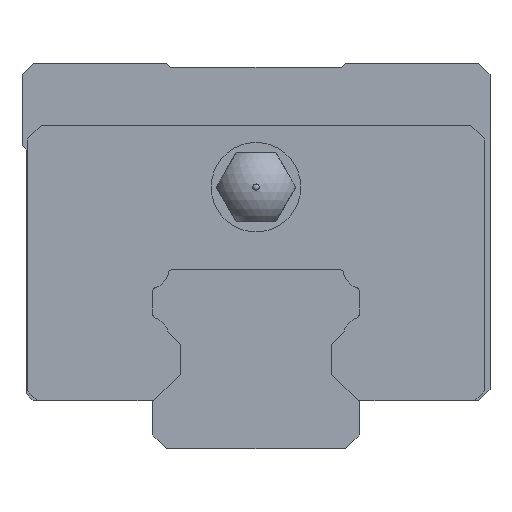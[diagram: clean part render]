
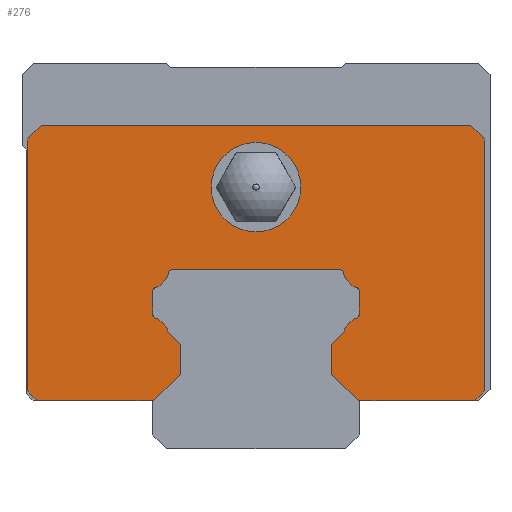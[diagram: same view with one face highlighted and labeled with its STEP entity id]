
A CAD part, front view. The second image highlights one B-rep face of the part: STEP entity #276.
In plain terms, the highlighted planar face has unit normal (0, -1, 0).
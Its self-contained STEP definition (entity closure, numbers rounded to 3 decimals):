
#276=ADVANCED_FACE('',(#544,#545),#546,.T.);
#544=FACE_OUTER_BOUND('',#863,.T.);
#545=FACE_BOUND('',#864,.T.);
#546=PLANE('',#865);
#863=EDGE_LOOP('',(#1785,#1786,#1787,#1788,#1789,#1790,#1791,#1792,#1793,#1794,#1795,#1796,#1797,#1798,#1799,#1800,#1801,#1802,#1803,#1804,#1805,#1806,#1807,#1808,#1809,#1810,#1811,#1812));
#864=EDGE_LOOP('',(#1813,#1814,#1815));
#865=AXIS2_PLACEMENT_3D('',#1816,#1817,#1818);
#1785=ORIENTED_EDGE('',*,*,#2475,.F.);
#1786=ORIENTED_EDGE('',*,*,#2476,.F.);
#1787=ORIENTED_EDGE('',*,*,#2477,.F.);
#1788=ORIENTED_EDGE('',*,*,#2478,.F.);
#1789=ORIENTED_EDGE('',*,*,#2434,.F.);
#1790=ORIENTED_EDGE('',*,*,#2466,.F.);
#1791=ORIENTED_EDGE('',*,*,#2479,.F.);
#1792=ORIENTED_EDGE('',*,*,#2480,.F.);
#1793=ORIENTED_EDGE('',*,*,#2481,.F.);
#1794=ORIENTED_EDGE('',*,*,#2482,.F.);
#1795=ORIENTED_EDGE('',*,*,#2483,.F.);
#1796=ORIENTED_EDGE('',*,*,#2484,.F.);
#1797=ORIENTED_EDGE('',*,*,#2485,.F.);
#1798=ORIENTED_EDGE('',*,*,#2486,.F.);
#1799=ORIENTED_EDGE('',*,*,#2487,.F.);
#1800=ORIENTED_EDGE('',*,*,#2488,.F.);
#1801=ORIENTED_EDGE('',*,*,#2438,.F.);
#1802=ORIENTED_EDGE('',*,*,#2429,.F.);
#1803=ORIENTED_EDGE('',*,*,#2489,.F.);
#1804=ORIENTED_EDGE('',*,*,#2427,.T.);
#1805=ORIENTED_EDGE('',*,*,#2443,.T.);
#1806=ORIENTED_EDGE('',*,*,#2490,.T.);
#1807=ORIENTED_EDGE('',*,*,#2491,.T.);
#1808=ORIENTED_EDGE('',*,*,#2412,.T.);
#1809=ORIENTED_EDGE('',*,*,#2492,.T.);
#1810=ORIENTED_EDGE('',*,*,#2473,.T.);
#1811=ORIENTED_EDGE('',*,*,#2415,.T.);
#1812=ORIENTED_EDGE('',*,*,#2384,.T.);
#1813=ORIENTED_EDGE('',*,*,#2493,.F.);
#1814=ORIENTED_EDGE('',*,*,#2494,.F.);
#1815=ORIENTED_EDGE('',*,*,#2334,.F.);
#1816=CARTESIAN_POINT('',(0.0,-7.5,19.));
#1817=DIRECTION('',(0.0,-1.0,0.0));
#1818=DIRECTION('',(0.0,0.0,-1.0));
#2334=EDGE_CURVE('',#2832,#2835,#2836,.T.);
#2384=EDGE_CURVE('',#2921,#2918,#2922,.T.);
#2412=EDGE_CURVE('',#2974,#2972,#2975,.T.);
#2415=EDGE_CURVE('',#2979,#2921,#2980,.T.);
#2427=EDGE_CURVE('',#2987,#2996,#2998,.T.);
#2429=EDGE_CURVE('',#3000,#3002,#3003,.T.);
#2434=EDGE_CURVE('',#3009,#3011,#3012,.T.);
#2438=EDGE_CURVE('',#3002,#3017,#3018,.T.);
#2443=EDGE_CURVE('',#2996,#3024,#3026,.T.);
#2466=EDGE_CURVE('',#3062,#3009,#3064,.T.);
#2473=EDGE_CURVE('',#3075,#2979,#3076,.T.);
#2475=EDGE_CURVE('',#3078,#2918,#3079,.T.);
#2476=EDGE_CURVE('',#3080,#3078,#3081,.T.);
#2477=EDGE_CURVE('',#3082,#3080,#3083,.T.);
#2478=EDGE_CURVE('',#3011,#3082,#3084,.T.);
#2479=EDGE_CURVE('',#3085,#3062,#3086,.T.);
#2480=EDGE_CURVE('',#3087,#3085,#3088,.T.);
#2481=EDGE_CURVE('',#3089,#3087,#3090,.T.);
#2482=EDGE_CURVE('',#3091,#3089,#3092,.T.);
#2483=EDGE_CURVE('',#3093,#3091,#3094,.T.);
#2484=EDGE_CURVE('',#3095,#3093,#3096,.T.);
#2485=EDGE_CURVE('',#3097,#3095,#3098,.T.);
#2486=EDGE_CURVE('',#3099,#3097,#3100,.T.);
#2487=EDGE_CURVE('',#3101,#3099,#3102,.T.);
#2488=EDGE_CURVE('',#3017,#3101,#3103,.T.);
#2489=EDGE_CURVE('',#2987,#3000,#3104,.T.);
#2490=EDGE_CURVE('',#3024,#3105,#3106,.T.);
#2491=EDGE_CURVE('',#3105,#2974,#3107,.T.);
#2492=EDGE_CURVE('',#2972,#3075,#3108,.T.);
#2493=EDGE_CURVE('',#3109,#2832,#3110,.T.);
#2494=EDGE_CURVE('',#2835,#3109,#3111,.T.);
#2832=VERTEX_POINT('',#3556);
#2835=VERTEX_POINT('',#3560);
#2836=CIRCLE('',#3561,3.25);
#2918=VERTEX_POINT('',#3670);
#2921=VERTEX_POINT('',#3674);
#2922=LINE('',#3675,#3676);
#2972=VERTEX_POINT('',#3749);
#2974=VERTEX_POINT('',#3752);
#2975=LINE('',#3753,#3754);
#2979=VERTEX_POINT('',#3760);
#2980=LINE('',#3761,#3762);
#2987=VERTEX_POINT('',#3770);
#2996=VERTEX_POINT('',#3784);
#2998=LINE('',#3787,#3788);
#3000=VERTEX_POINT('',#3790);
#3002=VERTEX_POINT('',#3793);
#3003=LINE('',#3794,#3795);
#3009=VERTEX_POINT('',#3803);
#3011=VERTEX_POINT('',#3806);
#3012=CIRCLE('',#3807,0.3);
#3017=VERTEX_POINT('',#3813);
#3018=LINE('',#3814,#3815);
#3024=VERTEX_POINT('',#3824);
#3026=LINE('',#3827,#3828);
#3062=VERTEX_POINT('',#3885);
#3064=LINE('',#3888,#3889);
#3075=VERTEX_POINT('',#3905);
#3076=LINE('',#3906,#3907);
#3078=VERTEX_POINT('',#3910);
#3079=LINE('',#3911,#3912);
#3080=VERTEX_POINT('',#3913);
#3081=LINE('',#3914,#3915);
#3082=VERTEX_POINT('',#3916);
#3083=LINE('',#3917,#3918);
#3084=CIRCLE('',#3919,1.4);
#3085=VERTEX_POINT('',#3920);
#3086=CIRCLE('',#3921,0.3);
#3087=VERTEX_POINT('',#3922);
#3088=CIRCLE('',#3923,1.4);
#3089=VERTEX_POINT('',#3924);
#3090=CIRCLE('',#3925,0.3);
#3091=VERTEX_POINT('',#3926);
#3092=LINE('',#3927,#3928);
#3093=VERTEX_POINT('',#3929);
#3094=CIRCLE('',#3930,0.3);
#3095=VERTEX_POINT('',#3931);
#3096=CIRCLE('',#3932,1.4);
#3097=VERTEX_POINT('',#3933);
#3098=CIRCLE('',#3934,0.3);
#3099=VERTEX_POINT('',#3935);
#3100=LINE('',#3936,#3937);
#3101=VERTEX_POINT('',#3938);
#3102=CIRCLE('',#3939,0.3);
#3103=CIRCLE('',#3940,1.4);
#3104=LINE('',#3941,#3942);
#3105=VERTEX_POINT('',#3943);
#3106=LINE('',#3944,#3945);
#3107=LINE('',#3946,#3947);
#3108=LINE('',#3948,#3949);
#3109=VERTEX_POINT('',#3950);
#3110=CIRCLE('',#3951,3.25);
#3111=CIRCLE('',#3952,3.25);
#3556=CARTESIAN_POINT('',(0.,-7.5,22.25));
#3560=CARTESIAN_POINT('',(0.,-7.5,15.75));
#3561=AXIS2_PLACEMENT_3D('',#4384,#4385,#4386);
#3670=CARTESIAN_POINT('',(-7.4,-7.5,3.5));
#3674=CARTESIAN_POINT('',(-15.9,-7.5,3.5));
#3675=CARTESIAN_POINT('',(-15.9,-7.5,3.5));
#3676=VECTOR('',#4478,1000.0);
#3749=CARTESIAN_POINT('',(-15.6,-7.5,23.5));
#3752=CARTESIAN_POINT('',(15.6,-7.5,23.5));
#3753=CARTESIAN_POINT('',(15.6,-7.5,23.5));
#3754=VECTOR('',#4512,1000.0);
#3760=CARTESIAN_POINT('',(-16.6,-7.5,4.2));
#3761=CARTESIAN_POINT('',(-16.6,-7.5,4.2));
#3762=VECTOR('',#4515,1000.0);
#3770=CARTESIAN_POINT('',(7.4,-7.5,3.5));
#3784=CARTESIAN_POINT('',(15.9,-7.5,3.5));
#3787=CARTESIAN_POINT('',(-15.9,-7.5,3.5));
#3788=VECTOR('',#4535,1000.0);
#3790=CARTESIAN_POINT('',(5.5,-7.5,5.4));
#3793=CARTESIAN_POINT('',(5.5,-7.5,7.6));
#3794=CARTESIAN_POINT('',(5.5,-7.5,19.));
#3795=VECTOR('',#4537,1000.0);
#3803=CARTESIAN_POINT('',(-7.5,-7.5,9.772));
#3806=CARTESIAN_POINT('',(-7.295,-7.5,9.488));
#3807=AXIS2_PLACEMENT_3D('',#4544,#4545,#4546);
#3813=CARTESIAN_POINT('',(6.376,-7.5,8.476));
#3814=CARTESIAN_POINT('',(8.45,-7.5,10.55));
#3815=VECTOR('',#4554,1000.0);
#3824=CARTESIAN_POINT('',(16.6,-7.5,4.2));
#3827=CARTESIAN_POINT('',(15.9,-7.5,3.5));
#3828=VECTOR('',#4559,1000.0);
#3885=CARTESIAN_POINT('',(-7.5,-7.5,11.428));
#3888=CARTESIAN_POINT('',(-7.5,-7.5,19.));
#3889=VECTOR('',#4582,1000.0);
#3905=CARTESIAN_POINT('',(-16.6,-7.5,22.5));
#3906=CARTESIAN_POINT('',(-16.6,-7.5,22.5));
#3907=VECTOR('',#4591,1000.0);
#3910=CARTESIAN_POINT('',(-5.5,-7.5,5.4));
#3911=CARTESIAN_POINT('',(4.05,-7.5,14.95));
#3912=VECTOR('',#4593,1000.0);
#3913=CARTESIAN_POINT('',(-5.5,-7.5,7.6));
#3914=CARTESIAN_POINT('',(-5.5,-7.5,19.));
#3915=VECTOR('',#4594,1000.0);
#3916=CARTESIAN_POINT('',(-6.376,-7.5,8.476));
#3917=CARTESIAN_POINT('',(-8.45,-7.5,10.55));
#3918=VECTOR('',#4595,1000.0);
#3919=AXIS2_PLACEMENT_3D('',#4596,#4597,#4598);
#3920=CARTESIAN_POINT('',(-7.295,-7.5,11.712));
#3921=AXIS2_PLACEMENT_3D('',#4599,#4600,#4601);
#3922=CARTESIAN_POINT('',(-6.368,-7.5,12.76));
#3923=AXIS2_PLACEMENT_3D('',#4602,#4603,#4604);
#3924=CARTESIAN_POINT('',(-6.074,-7.5,13.0));
#3925=AXIS2_PLACEMENT_3D('',#4605,#4606,#4607);
#3926=CARTESIAN_POINT('',(6.074,-7.5,13.));
#3927=CARTESIAN_POINT('',(0.0,-7.5,13.0));
#3928=VECTOR('',#4608,1000.0);
#3929=CARTESIAN_POINT('',(6.368,-7.5,12.76));
#3930=AXIS2_PLACEMENT_3D('',#4609,#4610,#4611);
#3931=CARTESIAN_POINT('',(7.295,-7.5,11.712));
#3932=AXIS2_PLACEMENT_3D('',#4612,#4613,#4614);
#3933=CARTESIAN_POINT('',(7.5,-7.5,11.428));
#3934=AXIS2_PLACEMENT_3D('',#4615,#4616,#4617);
#3935=CARTESIAN_POINT('',(7.5,-7.5,9.772));
#3936=CARTESIAN_POINT('',(7.5,-7.5,19.));
#3937=VECTOR('',#4618,1000.0);
#3938=CARTESIAN_POINT('',(7.295,-7.5,9.488));
#3939=AXIS2_PLACEMENT_3D('',#4619,#4620,#4621);
#3940=AXIS2_PLACEMENT_3D('',#4622,#4623,#4624);
#3941=CARTESIAN_POINT('',(-4.05,-7.5,14.95));
#3942=VECTOR('',#4625,1000.0);
#3943=CARTESIAN_POINT('',(16.6,-7.5,22.5));
#3944=CARTESIAN_POINT('',(16.6,-7.5,4.2));
#3945=VECTOR('',#4626,1000.0);
#3946=CARTESIAN_POINT('',(16.6,-7.5,22.5));
#3947=VECTOR('',#4627,1000.0);
#3948=CARTESIAN_POINT('',(-15.6,-7.5,23.5));
#3949=VECTOR('',#4628,1000.0);
#3950=CARTESIAN_POINT('',(3.25,-7.5,19.));
#3951=AXIS2_PLACEMENT_3D('',#4629,#4630,#4631);
#3952=AXIS2_PLACEMENT_3D('',#4632,#4633,#4634);
#4384=CARTESIAN_POINT('',(0.0,-7.5,19.));
#4385=DIRECTION('',(0.0,-1.0,0.0));
#4386=DIRECTION('',(1.0,0.0,0.0));
#4478=DIRECTION('',(1.0,0.0,0.));
#4512=DIRECTION('',(-1.0,0.0,0.0));
#4515=DIRECTION('',(0.707,0.0,-0.707));
#4535=DIRECTION('',(1.0,0.0,0.));
#4537=DIRECTION('',(0.0,0.0,1.0));
#4544=CARTESIAN_POINT('',(-7.2,-7.5,9.772));
#4545=DIRECTION('',(0.0,-1.0,0.0));
#4546=DIRECTION('',(0.0,0.0,-1.0));
#4554=DIRECTION('',(0.707,0.0,0.707));
#4559=DIRECTION('',(0.707,0.0,0.707));
#4582=DIRECTION('',(0.0,0.0,-1.0));
#4591=DIRECTION('',(0.0,0.0,-1.0));
#4593=DIRECTION('',(-0.707,0.0,-0.707));
#4594=DIRECTION('',(0.0,0.0,-1.0));
#4595=DIRECTION('',(0.707,0.0,-0.707));
#4596=CARTESIAN_POINT('',(-7.74,-7.5,8.16));
#4597=DIRECTION('',(0.0,1.0,0.0));
#4598=DIRECTION('',(0.0,0.0,-1.0));
#4599=CARTESIAN_POINT('',(-7.2,-7.5,11.428));
#4600=DIRECTION('',(0.0,-1.0,0.0));
#4601=DIRECTION('',(0.0,0.0,-1.0));
#4602=CARTESIAN_POINT('',(-7.74,-7.5,13.04));
#4603=DIRECTION('',(0.0,1.0,0.0));
#4604=DIRECTION('',(0.0,0.0,-1.0));
#4605=CARTESIAN_POINT('',(-6.074,-7.5,12.7));
#4606=DIRECTION('',(0.0,-1.0,0.0));
#4607=DIRECTION('',(0.0,0.0,-1.0));
#4608=DIRECTION('',(-1.0,0.0,0.0));
#4609=CARTESIAN_POINT('',(6.074,-7.5,12.7));
#4610=DIRECTION('',(0.0,-1.0,0.0));
#4611=DIRECTION('',(0.0,0.0,-1.0));
#4612=CARTESIAN_POINT('',(7.74,-7.5,13.04));
#4613=DIRECTION('',(0.0,1.0,0.0));
#4614=DIRECTION('',(0.0,0.0,-1.0));
#4615=CARTESIAN_POINT('',(7.2,-7.5,11.428));
#4616=DIRECTION('',(0.0,-1.0,0.0));
#4617=DIRECTION('',(0.0,0.0,-1.0));
#4618=DIRECTION('',(0.0,0.0,1.0));
#4619=CARTESIAN_POINT('',(7.2,-7.5,9.772));
#4620=DIRECTION('',(0.0,-1.0,0.0));
#4621=DIRECTION('',(0.0,0.0,-1.0));
#4622=CARTESIAN_POINT('',(7.74,-7.5,8.16));
#4623=DIRECTION('',(0.0,1.0,0.0));
#4624=DIRECTION('',(0.0,0.0,-1.0));
#4625=DIRECTION('',(-0.707,0.0,0.707));
#4626=DIRECTION('',(0.0,0.0,1.0));
#4627=DIRECTION('',(-0.707,0.0,0.707));
#4628=DIRECTION('',(-0.707,0.0,-0.707));
#4629=CARTESIAN_POINT('',(0.0,-7.5,19.));
#4630=DIRECTION('',(0.0,-1.0,0.0));
#4631=DIRECTION('',(1.0,0.0,0.0));
#4632=CARTESIAN_POINT('',(0.0,-7.5,19.));
#4633=DIRECTION('',(0.0,-1.0,0.0));
#4634=DIRECTION('',(1.0,0.0,0.0));
